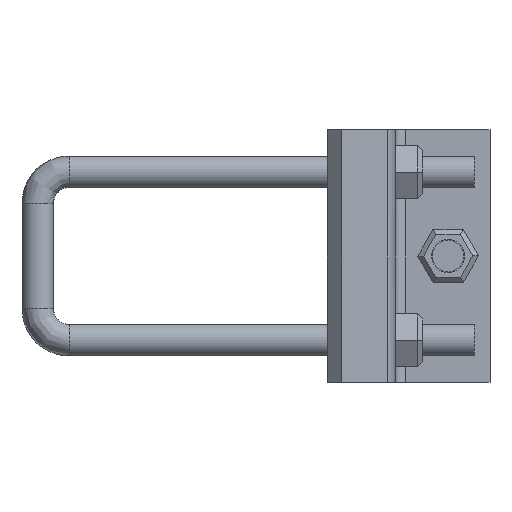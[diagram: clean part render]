
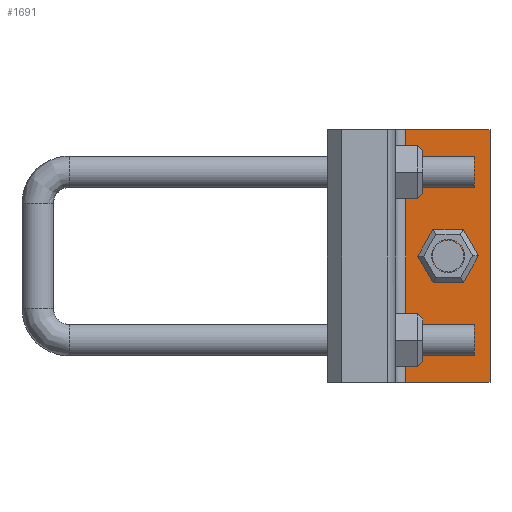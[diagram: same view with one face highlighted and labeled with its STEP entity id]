
A CAD part, left-side view. The second image highlights one B-rep face of the part: STEP entity #1691.
In plain terms, the highlighted planar face has unit normal (-1, 0, 0).
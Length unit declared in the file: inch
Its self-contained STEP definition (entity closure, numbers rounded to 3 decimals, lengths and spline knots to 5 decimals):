
#735=EDGE_CURVE('',#1924,#1925,#1926,.T.);
#747=EDGE_CURVE('',#1925,#1946,#1947,.T.);
#1691=ADVANCED_FACE('',(#3221,#3222),#3223,.T.);
#1699=EDGE_CURVE('',#1924,#2072,#3232,.T.);
#1711=EDGE_CURVE('',#1946,#2072,#3245,.T.);
#1924=VERTEX_POINT('',#3572);
#1925=VERTEX_POINT('',#3573);
#1926=LINE('',#3574,#3575);
#1946=VERTEX_POINT('',#3604);
#1947=LINE('',#3605,#3606);
#2072=VERTEX_POINT('',#3937);
#3221=FACE_OUTER_BOUND('',#6319,.T.);
#3222=FACE_BOUND('',#6320,.T.);
#3223=PLANE('',#6321);
#3232=LINE('',#6334,#6335);
#3245=LINE('',#6361,#6362);
#3572=CARTESIAN_POINT('',(-3.0,1.0,0.));
#3573=CARTESIAN_POINT('',(-3.0,0.0,0.));
#3574=CARTESIAN_POINT('',(-3.0,1.0,0.));
#3575=VECTOR('',#6467,1.);
#3604=CARTESIAN_POINT('',(-3.0,0.0,3.0));
#3605=CARTESIAN_POINT('',(-3.0,0.0,0.));
#3606=VECTOR('',#6480,1.);
#3937=CARTESIAN_POINT('',(-3.0,1.0,3.0));
#6319=EDGE_LOOP('',(#8072,#8073,#8074,#8075));
#6320=EDGE_LOOP('',(#8076,#8077));
#6321=AXIS2_PLACEMENT_3D('',#8078,#8079,#8080);
#6334=CARTESIAN_POINT('',(-3.0,1.0,0.));
#6335=VECTOR('',#8093,1.);
#6361=CARTESIAN_POINT('',(-3.0,1.0,3.0));
#6362=VECTOR('',#8104,1.);
#6467=DIRECTION('',(0.0,-1.0,0.0));
#6480=DIRECTION('',(0.0,0.0,1.0));
#8072=ORIENTED_EDGE('',*,*,#1711,.T.);
#8073=ORIENTED_EDGE('',*,*,#1699,.F.);
#8074=ORIENTED_EDGE('',*,*,#735,.T.);
#8075=ORIENTED_EDGE('',*,*,#747,.T.);
#8076=ORIENTED_EDGE('',*,*,#8248,.F.);
#8077=ORIENTED_EDGE('',*,*,#8159,.F.);
#8078=CARTESIAN_POINT('',(-3.0,0.5,0.));
#8079=DIRECTION('',(-1.0,0.0,0.0));
#8080=DIRECTION('',(0.0,-1.0,0.0));
#8093=DIRECTION('',(0.0,0.0,1.0));
#8104=DIRECTION('',(0.0,1.0,0.0));
#8159=EDGE_CURVE('',#8426,#8428,#8429,.T.);
#8248=EDGE_CURVE('',#8428,#8426,#8529,.T.);
#8426=VERTEX_POINT('',#8731);
#8428=VERTEX_POINT('',#8734);
#8429=CIRCLE('',#8735,0.1875);
#8529=CIRCLE('',#8849,0.1875);
#8731=CARTESIAN_POINT('',(-3.0,0.68737,1.5));
#8734=CARTESIAN_POINT('',(-3.0,0.31237,1.5));
#8735=AXIS2_PLACEMENT_3D('',#9022,#9023,#9024);
#8849=AXIS2_PLACEMENT_3D('',#9076,#9077,#9078);
#9022=CARTESIAN_POINT('',(-3.0,0.49987,1.5));
#9023=DIRECTION('',(-1.0,0.0,0.0));
#9024=DIRECTION('',(0.0,1.0,0.0));
#9076=CARTESIAN_POINT('',(-3.0,0.49987,1.5));
#9077=DIRECTION('',(-1.0,0.0,0.0));
#9078=DIRECTION('',(0.0,1.0,0.0));
